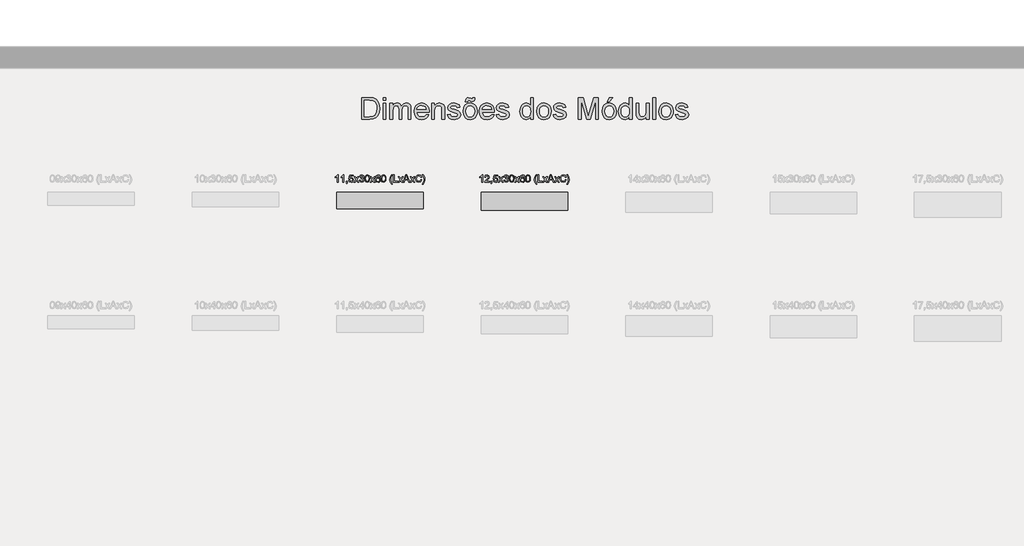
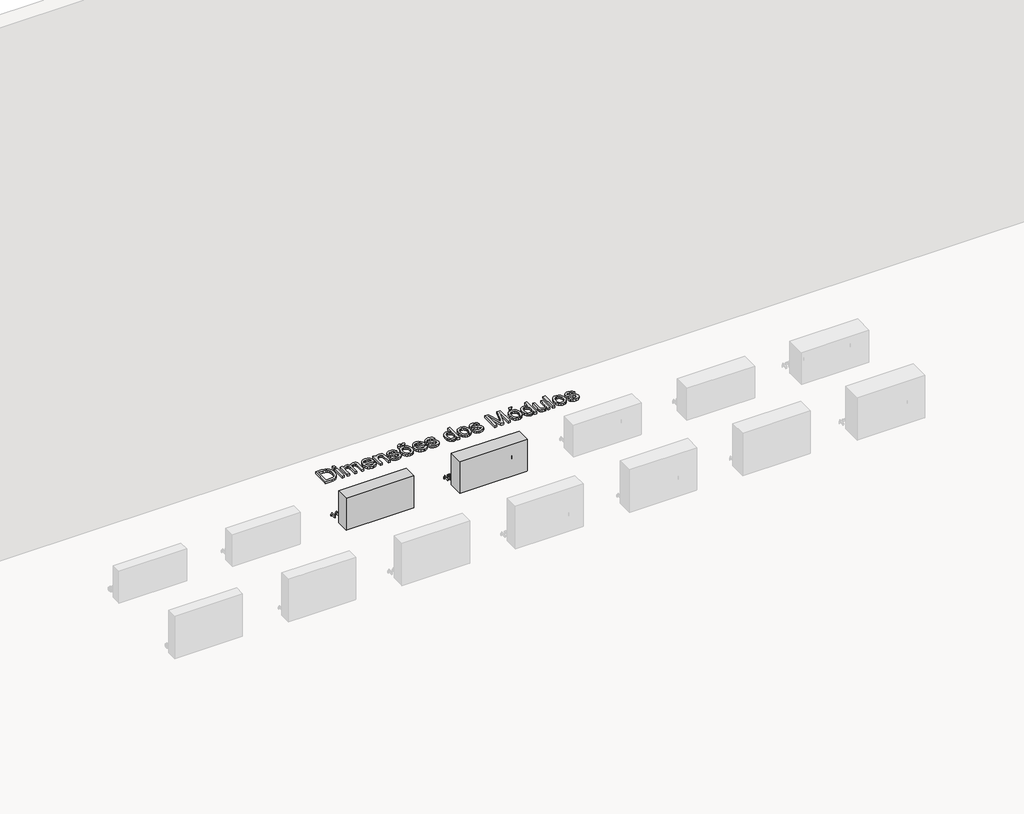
# One storey, part 20 of 26: 5 proxies.
"""IFC4 building model written with IfcOpenShell, lengths in millimetres."""

from ifc_helpers import new_model, si_unit, origin, origin_with_axes, place, context, project, spatial, polyline, outline, extrude, transform, mapped, element, save
from components import generic_models_adb0b913, generic_models_a790b70a

model = new_model("IFC4")

# Units and contexts
model_context = context("Model", 3, world=origin())
ifc_project = project(units=[si_unit("LENGTHUNIT", "METRE", prefix="MILLI")], contexts=[model_context])

# Site, building, storey
site = spatial("IfcSite", under=ifc_project)
building = spatial("IfcBuilding", under=site)
storey = spatial("IfcBuildingStorey", under=building, Name="Catálogo Celucon", Elevation=0.0)

# Proxies
placement = place(None, origin())
element("IfcBuildingElementProxy", 1, Name="Dimensões", ObjectType="Dimensões", at=placement, inside=storey, context=model_context, shape_type="SweptSolid", body=[
    extrude(outline(polyline([(-9787.0646748, 1418.4635097), (-9793.3431942, 1418.4635097), (-9793.3431942, 1457.606154), (-9799.2906197, 1453.3693797), (-9805.9002329, 1450.1994632), (-9805.9002329, 1456.134626), (-9796.6970517, 1462.0084752), (-9791.1113767, 1468.6916648), (-9787.0646748, 1468.6916648), (-9787.0646748, 1418.4635097)])), origin_with_axes(), (0.0, 0.0, 1.0), 20.0),
    extrude(outline(polyline([(-9748.6087435, 1418.4635097), (-9754.8872629, 1418.4635097), (-9754.8872629, 1457.606154), (-9760.8346885, 1453.3693797), (-9767.4443017, 1450.1994632), (-9767.4443017, 1456.134626), (-9758.2411204, 1462.0084752), (-9752.6554455, 1468.6916648), (-9748.6087435, 1468.6916648), (-9748.6087435, 1418.4635097)])), origin_with_axes(), (0.0, 0.0, 1.0), 20.0),
    extrude(outline(polyline([(-9730.5580003, 1418.4635097), (-9730.5580003, 1424.7420291), (-9724.2794809, 1424.7420291), (-9724.2794809, 1418.4635097), (-9725.4076524, 1412.0439689), (-9728.9883705, 1408.2609157), (-9730.5580003, 1410.6153605), (-9728.2526065, 1413.3254245), (-9727.4310034, 1418.4635097), (-9730.5580003, 1418.4635097)])), origin_with_axes(), (0.0, 0.0, 1.0), 20.0),
    extrude(outline(polyline([(-9714.0768869, 1431.8053634), (-9707.7983675, 1432.5901783), (-9704.6345824, 1426.1215866), (-9698.0740201, 1423.9572142), (-9690.2013454, 1426.9677152), (-9687.3931795, 1434.9568858), (-9690.0235358, 1442.4126276), (-9697.9759183, 1445.1472171), (-9703.4880168, 1444.0558338), (-9707.0135526, 1441.2231425), (-9713.292072, 1442.0079574), (-9707.7983675, 1467.9068499), (-9683.4691049, 1467.9068499), (-9683.4691049, 1461.6283305), (-9702.721596, 1461.6283305), (-9705.4071346, 1447.7959675), (-9696.2223474, 1451.4257365), (-9685.4863245, 1446.9253134), (-9681.1146602, 1435.3492933), (-9685.0509975, 1423.6996968), (-9690.7041175, 1419.1839453), (-9698.0985456, 1417.6786948), (-9709.177925, 1421.5475871), (-9714.0768869, 1431.8053634)])), origin_with_axes(), (0.0, 0.0, 1.0), 20.0),
    extrude(outline(polyline([(-9677.9754005, 1418.4635097), (-9664.5599704, 1437.0047623), (-9677.1905855, 1455.3498111), (-9669.6367419, 1455.3498111), (-9663.5421635, 1446.5206432), (-9660.6972094, 1442.3513139), (-9658.2324001, 1445.7603537), (-9651.2916931, 1455.3498111), (-9643.7378494, 1455.3498111), (-9657.0061267, 1437.0047623), (-9644.2283588, 1418.4635097), (-9651.7822024, 1418.4635097), (-9659.4709361, 1429.6103342), (-9660.8811504, 1431.6459479), (-9670.4215568, 1418.4635097), (-9677.9754005, 1418.4635097)])), origin_with_axes(), (0.0, 0.0, 1.0), 20.0),
    extrude(outline(polyline([(-9640.3042842, 1431.8053634), (-9634.0257648, 1432.5901783), (-9630.5615427, 1425.9805651), (-9624.0806882, 1423.9572142), (-9616.4532681, 1426.7408546), (-9613.6205768, 1433.6325106), (-9616.4287427, 1440.1256279), (-9623.5656534, 1442.6946705), (-9627.9679746, 1442.0079574), (-9627.2689988, 1448.2864768), (-9619.1388067, 1450.0155222), (-9615.9750215, 1455.5582776), (-9618.2681526, 1460.4695022), (-9624.17879, 1462.4131454), (-9630.1630038, 1460.4511081), (-9633.2409499, 1454.5649962), (-9639.5194692, 1455.3498111), (-9634.381384, 1465.1967858), (-9624.3995192, 1468.6916648), (-9616.8272815, 1466.9687508), (-9611.5297808, 1462.2598612), (-9609.6965022, 1455.9261595), (-9611.4378103, 1450.1381495), (-9616.5881582, 1445.9810829), (-9609.7455531, 1441.6891263), (-9607.3420574, 1433.522146), (-9612.1490488, 1422.2894825), (-9624.3014174, 1417.6786948), (-9635.3133518, 1421.6150321), (-9640.3042842, 1431.8053634)])), origin_with_axes(), (0.0, 0.0, 1.0), 20.0),
    extrude(outline(polyline([(-9601.8483529, 1443.172917), (-9600.0028116, 1457.6245481), (-9594.5213699, 1465.9570753), (-9585.3672395, 1468.6916648), (-9578.0341251, 1467.072984), (-9572.9696163, 1462.407014), (-9570.0265603, 1454.9757977), (-9568.8861262, 1443.172917), (-9570.7132734, 1428.7825997), (-9576.176321, 1420.4316784), (-9585.3672395, 1417.6786948), (-9596.8451578, 1422.4611607), (-9600.5975541, 1430.9561691), (-9601.8483529, 1443.172917)]), holes=[polyline([(-9595.5698335, 1443.1851798), (-9592.6267776, 1427.5931146), (-9585.3672395, 1423.9572142), (-9578.1077015, 1427.6053773), (-9575.1646455, 1443.1851798), (-9578.0095996, 1458.5994354), (-9585.4408159, 1462.4131454), (-9592.5286757, 1459.0531565), (-9595.5698335, 1443.1851798)])]), origin_with_axes(), (0.0, 0.0, 1.0), 20.0),
    extrude(outline(polyline([(-9565.7468665, 1418.4635097), (-9552.3314364, 1437.0047623), (-9564.9620515, 1455.3498111), (-9557.4082079, 1455.3498111), (-9551.3136295, 1446.5206432), (-9548.4686754, 1442.3513139), (-9546.0038661, 1445.7603537), (-9539.0631591, 1455.3498111), (-9531.5093155, 1455.3498111), (-9544.7775927, 1437.0047623), (-9531.9998248, 1418.4635097), (-9539.5536684, 1418.4635097), (-9547.2424021, 1429.6103342), (-9548.6526164, 1431.6459479), (-9558.1930228, 1418.4635097), (-9565.7468665, 1418.4635097)])), origin_with_axes(), (0.0, 0.0, 1.0), 20.0),
    extrude(outline(polyline([(-9495.8983383, 1455.3498111), (-9502.1768577, 1454.5649962), (-9504.5558279, 1459.8011832), (-9510.8466101, 1462.4131454), (-9516.5119928, 1460.8925665), (-9520.797818, 1455.1842642), (-9522.5820457, 1443.9945202), (-9517.0454217, 1449.0038467), (-9510.1844225, 1450.6409215), (-9499.5158446, 1446.1650239), (-9495.1135234, 1434.6012666), (-9497.1859253, 1425.9376456), (-9502.8880962, 1419.806279), (-9511.1163902, 1417.6786948), (-9523.9125523, 1423.319552), (-9527.6235619, 1430.7875565), (-9528.8605651, 1441.9098555), (-9527.487139, 1454.4147777), (-9523.3668606, 1462.9649684), (-9517.7413318, 1467.2599907), (-9510.4542026, 1468.6916648), (-9500.5336515, 1465.1477349), (-9495.8983383, 1455.3498111)]), holes=[polyline([(-9522.5820457, 1434.6993684), (-9521.1289118, 1429.2608463), (-9517.2661509, 1425.3122462), (-9511.6068995, 1423.9572142), (-9504.20634, 1426.7653801), (-9501.3920428, 1434.3928001), (-9504.1695518, 1441.6952577), (-9511.8644169, 1444.3624022), (-9519.4611801, 1441.6952577), (-9522.5820457, 1434.6993684)])]), origin_with_axes(), (0.0, 0.0, 1.0), 20.0),
    extrude(outline(polyline([(-9489.6198189, 1443.172917), (-9487.7742776, 1457.6245481), (-9482.2928359, 1465.9570753), (-9473.1387056, 1468.6916648), (-9465.8055911, 1467.072984), (-9460.7410823, 1462.407014), (-9457.7980264, 1454.9757977), (-9456.6575922, 1443.172917), (-9458.4847394, 1428.7825997), (-9463.947787, 1420.4316784), (-9473.1387056, 1417.6786948), (-9484.6166238, 1422.4611607), (-9488.3690202, 1430.9561691), (-9489.6198189, 1443.172917)]), holes=[polyline([(-9483.3412996, 1443.1851798), (-9480.3982436, 1427.5931146), (-9473.1387056, 1423.9572142), (-9465.8791675, 1427.6053773), (-9462.9361116, 1443.1851798), (-9465.7810656, 1458.5994354), (-9473.212282, 1462.4131454), (-9480.3001417, 1459.0531565), (-9483.3412996, 1443.1851798)])]), origin_with_axes(), (0.0, 0.0, 1.0), 20.0),
    extrude(outline(polyline([(-9417.416846, 1404.3368411), (-9426.331853, 1419.0643836), (-9429.9738848, 1436.5510411), (-9427.251558, 1451.8181439), (-9417.416846, 1468.6916648), (-9412.7079565, 1468.6916648), (-9418.5818057, 1458.7465882), (-9422.1134728, 1449.1080799), (-9423.6953654, 1436.5142529), (-9420.9485132, 1420.4194156), (-9412.7079565, 1404.3368411), (-9417.416846, 1404.3368411)])), origin_with_axes(), (0.0, 0.0, 1.0), 20.0),
    extrude(outline(polyline([(-9405.6446222, 1418.4635097), (-9405.6446222, 1468.6916648), (-9399.3661028, 1468.6916648), (-9399.3661028, 1424.7420291), (-9374.2520252, 1424.7420291), (-9374.2520252, 1418.4635097), (-9405.6446222, 1418.4635097)])), origin_with_axes(), (0.0, 0.0, 1.0), 20.0),
    extrude(outline(polyline([(-9337.7213431, 1418.4635097), (-9317.6717744, 1468.6916648), (-9312.3252227, 1468.6916648), (-9292.275654, 1418.4635097), (-9298.9097926, 1418.4635097), (-9304.6610145, 1434.1598082), (-9325.3482454, 1434.1598082), (-9331.0872045, 1418.4635097), (-9337.7213431, 1418.4635097)]), holes=[polyline([(-9323.0428515, 1440.4383275), (-9306.9541456, 1440.4383275), (-9311.4790941, 1452.7868999), (-9314.9984986, 1462.4131454), (-9318.1254955, 1453.8660204), (-9323.0428515, 1440.4383275)])]), origin_with_axes(), (0.0, 0.0, 1.0), 20.0),
    extrude(outline(polyline([(-9371.8975805, 1418.4635097), (-9358.4821504, 1437.0047623), (-9371.1127656, 1455.3498111), (-9363.5589219, 1455.3498111), (-9357.4643435, 1446.5206432), (-9354.6193894, 1442.3513139), (-9352.1545801, 1445.7603537), (-9345.2138731, 1455.3498111), (-9337.6600295, 1455.3498111), (-9350.9283068, 1437.0047623), (-9338.1505388, 1418.4635097), (-9345.7043824, 1418.4635097), (-9353.3931161, 1429.6103342), (-9354.8033304, 1431.6459479), (-9364.3437368, 1418.4635097), (-9371.8975805, 1418.4635097)])), origin_with_axes(), (0.0, 0.0, 1.0), 20.0),
    extrude(outline(polyline([(-9290.2768285, 1418.4635097), (-9276.8613984, 1437.0047623), (-9289.4920136, 1455.3498111), (-9281.9381699, 1455.3498111), (-9275.8435915, 1446.5206432), (-9272.9986374, 1442.3513139), (-9270.5338281, 1445.7603537), (-9263.5931211, 1455.3498111), (-9256.0392775, 1455.3498111), (-9269.3075548, 1437.0047623), (-9256.5297868, 1418.4635097), (-9264.0836304, 1418.4635097), (-9271.7723641, 1429.6103342), (-9273.1825784, 1431.6459479), (-9282.7229848, 1418.4635097), (-9290.2768285, 1418.4635097)])), origin_with_axes(), (0.0, 0.0, 1.0), 20.0),
    extrude(outline(polyline([(-9214.9345959, 1436.3180492), (-9208.6560765, 1434.6993684), (-9216.0995555, 1422.0380964), (-9229.2452055, 1417.6786948), (-9242.3111477, 1420.97737), (-9249.9753559, 1430.5300391), (-9252.6057122, 1443.957732), (-9249.6319994, 1457.606154), (-9241.1768449, 1466.453716), (-9229.1103154, 1469.4764797), (-9216.5348825, 1465.5646678), (-9209.4408914, 1454.5527334), (-9215.7194108, 1453.05668), (-9220.8697587, 1460.7760705), (-9229.3555701, 1463.1979603), (-9239.1780194, 1460.5124218), (-9244.7269061, 1453.3019346), (-9246.3271928, 1443.9699947), (-9244.4326005, 1433.154264), (-9238.5342259, 1426.2442139), (-9229.8706049, 1423.9572142), (-9220.2627534, 1427.0719484), (-9214.9345959, 1436.3180492)])), origin_with_axes(), (0.0, 0.0, 1.0), 20.0),
    extrude(outline(polyline([(-9199.2382974, 1404.3368411), (-9203.9471869, 1404.3368411), (-9195.7066303, 1420.4194156), (-9192.959778, 1436.5142529), (-9194.5416706, 1448.9977153), (-9198.0365496, 1458.6484863), (-9203.9471869, 1468.6916648), (-9199.2382974, 1468.6916648), (-9189.4035854, 1451.8181439), (-9186.6812586, 1436.5510411), (-9190.3416845, 1419.0643836), (-9199.2382974, 1404.3368411)])), origin_with_axes(), (0.0, 0.0, 1.0), 20.0),
])
element("IfcBuildingElementProxy", 2, Name="Dimensões", ObjectType="Dimensões", at=placement, inside=storey, context=model_context, shape_type="SweptSolid", body=[
    extrude(outline(polyline([(-8787.0646748, 1418.4635097), (-8793.3431942, 1418.4635097), (-8793.3431942, 1457.606154), (-8799.2906197, 1453.3693797), (-8805.9002329, 1450.1994632), (-8805.9002329, 1456.134626), (-8796.6970517, 1462.0084752), (-8791.1113767, 1468.6916648), (-8787.0646748, 1468.6916648), (-8787.0646748, 1418.4635097)])), origin_with_axes(), (0.0, 0.0, 1.0), 20.0),
    extrude(outline(polyline([(-8739.9757794, 1424.7420291), (-8739.9757794, 1418.4635097), (-8772.9380062, 1418.4635097), (-8772.2635558, 1422.7922545), (-8768.4498458, 1429.45705), (-8760.5894338, 1436.7349821), (-8749.7491777, 1447.1950935), (-8747.0391137, 1454.3074788), (-8749.5958936, 1460.064832), (-8756.2729518, 1462.4131454), (-8763.2320528, 1460.1200143), (-8765.8746718, 1453.7801812), (-8772.1531912, 1454.5649962), (-8767.3400685, 1465.0741585), (-8756.1380617, 1468.6916648), (-8744.8992668, 1464.6694883), (-8740.7605943, 1454.6876235), (-8741.876503, 1448.7340665), (-8745.5859798, 1442.5781745), (-8754.5806946, 1433.9758672), (-8761.8034444, 1427.9364711), (-8764.6361358, 1424.7420291), (-8739.9757794, 1424.7420291)])), origin_with_axes(), (0.0, 0.0, 1.0), 20.0),
    extrude(outline(polyline([(-8730.5580003, 1418.4635097), (-8730.5580003, 1424.7420291), (-8724.2794809, 1424.7420291), (-8724.2794809, 1418.4635097), (-8725.4076524, 1412.0439689), (-8728.9883705, 1408.2609157), (-8730.5580003, 1410.6153605), (-8728.2526065, 1413.3254245), (-8727.4310034, 1418.4635097), (-8730.5580003, 1418.4635097)])), origin_with_axes(), (0.0, 0.0, 1.0), 20.0),
    extrude(outline(polyline([(-8714.0768869, 1431.8053634), (-8707.7983675, 1432.5901783), (-8704.6345824, 1426.1215866), (-8698.0740201, 1423.9572142), (-8690.2013454, 1426.9677152), (-8687.3931795, 1434.9568858), (-8690.0235358, 1442.4126276), (-8697.9759183, 1445.1472171), (-8703.4880168, 1444.0558338), (-8707.0135526, 1441.2231425), (-8713.292072, 1442.0079574), (-8707.7983675, 1467.9068499), (-8683.4691049, 1467.9068499), (-8683.4691049, 1461.6283305), (-8702.721596, 1461.6283305), (-8705.4071346, 1447.7959675), (-8696.2223474, 1451.4257365), (-8685.4863245, 1446.9253134), (-8681.1146602, 1435.3492933), (-8685.0509975, 1423.6996968), (-8690.7041175, 1419.1839453), (-8698.0985456, 1417.6786948), (-8709.177925, 1421.5475871), (-8714.0768869, 1431.8053634)])), origin_with_axes(), (0.0, 0.0, 1.0), 20.0),
    extrude(outline(polyline([(-8677.9754005, 1418.4635097), (-8664.5599704, 1437.0047623), (-8677.1905855, 1455.3498111), (-8669.6367419, 1455.3498111), (-8663.5421635, 1446.5206432), (-8660.6972094, 1442.3513139), (-8658.2324001, 1445.7603537), (-8651.2916931, 1455.3498111), (-8643.7378494, 1455.3498111), (-8657.0061267, 1437.0047623), (-8644.2283588, 1418.4635097), (-8651.7822024, 1418.4635097), (-8659.4709361, 1429.6103342), (-8660.8811504, 1431.6459479), (-8670.4215568, 1418.4635097), (-8677.9754005, 1418.4635097)])), origin_with_axes(), (0.0, 0.0, 1.0), 20.0),
    extrude(outline(polyline([(-8640.3042842, 1431.8053634), (-8634.0257648, 1432.5901783), (-8630.5615427, 1425.9805651), (-8624.0806882, 1423.9572142), (-8616.4532681, 1426.7408546), (-8613.6205768, 1433.6325106), (-8616.4287427, 1440.1256279), (-8623.5656534, 1442.6946705), (-8627.9679746, 1442.0079574), (-8627.2689988, 1448.2864768), (-8619.1388067, 1450.0155222), (-8615.9750215, 1455.5582776), (-8618.2681526, 1460.4695022), (-8624.17879, 1462.4131454), (-8630.1630038, 1460.4511081), (-8633.2409499, 1454.5649962), (-8639.5194692, 1455.3498111), (-8634.381384, 1465.1967858), (-8624.3995192, 1468.6916648), (-8616.8272815, 1466.9687508), (-8611.5297808, 1462.2598612), (-8609.6965022, 1455.9261595), (-8611.4378103, 1450.1381495), (-8616.5881582, 1445.9810829), (-8609.7455531, 1441.6891263), (-8607.3420574, 1433.522146), (-8612.1490488, 1422.2894825), (-8624.3014174, 1417.6786948), (-8635.3133518, 1421.6150321), (-8640.3042842, 1431.8053634)])), origin_with_axes(), (0.0, 0.0, 1.0), 20.0),
    extrude(outline(polyline([(-8601.8483529, 1443.172917), (-8600.0028116, 1457.6245481), (-8594.5213699, 1465.9570753), (-8585.3672395, 1468.6916648), (-8578.0341251, 1467.072984), (-8572.9696163, 1462.407014), (-8570.0265603, 1454.9757977), (-8568.8861262, 1443.172917), (-8570.7132734, 1428.7825997), (-8576.176321, 1420.4316784), (-8585.3672395, 1417.6786948), (-8596.8451578, 1422.4611607), (-8600.5975541, 1430.9561691), (-8601.8483529, 1443.172917)]), holes=[polyline([(-8595.5698335, 1443.1851798), (-8592.6267776, 1427.5931146), (-8585.3672395, 1423.9572142), (-8578.1077015, 1427.6053773), (-8575.1646455, 1443.1851798), (-8578.0095996, 1458.5994354), (-8585.4408159, 1462.4131454), (-8592.5286757, 1459.0531565), (-8595.5698335, 1443.1851798)])]), origin_with_axes(), (0.0, 0.0, 1.0), 20.0),
    extrude(outline(polyline([(-8565.7468665, 1418.4635097), (-8552.3314364, 1437.0047623), (-8564.9620515, 1455.3498111), (-8557.4082079, 1455.3498111), (-8551.3136295, 1446.5206432), (-8548.4686754, 1442.3513139), (-8546.0038661, 1445.7603537), (-8539.0631591, 1455.3498111), (-8531.5093155, 1455.3498111), (-8544.7775927, 1437.0047623), (-8531.9998248, 1418.4635097), (-8539.5536684, 1418.4635097), (-8547.2424021, 1429.6103342), (-8548.6526164, 1431.6459479), (-8558.1930228, 1418.4635097), (-8565.7468665, 1418.4635097)])), origin_with_axes(), (0.0, 0.0, 1.0), 20.0),
    extrude(outline(polyline([(-8495.8983383, 1455.3498111), (-8502.1768577, 1454.5649962), (-8504.5558279, 1459.8011832), (-8510.8466101, 1462.4131454), (-8516.5119928, 1460.8925665), (-8520.797818, 1455.1842642), (-8522.5820457, 1443.9945202), (-8517.0454217, 1449.0038467), (-8510.1844225, 1450.6409215), (-8499.5158446, 1446.1650239), (-8495.1135234, 1434.6012666), (-8497.1859253, 1425.9376456), (-8502.8880962, 1419.806279), (-8511.1163902, 1417.6786948), (-8523.9125523, 1423.319552), (-8527.6235619, 1430.7875565), (-8528.8605651, 1441.9098555), (-8527.487139, 1454.4147777), (-8523.3668606, 1462.9649684), (-8517.7413318, 1467.2599907), (-8510.4542026, 1468.6916648), (-8500.5336515, 1465.1477349), (-8495.8983383, 1455.3498111)]), holes=[polyline([(-8522.5820457, 1434.6993684), (-8521.1289118, 1429.2608463), (-8517.2661509, 1425.3122462), (-8511.6068995, 1423.9572142), (-8504.20634, 1426.7653801), (-8501.3920428, 1434.3928001), (-8504.1695518, 1441.6952577), (-8511.8644169, 1444.3624022), (-8519.4611801, 1441.6952577), (-8522.5820457, 1434.6993684)])]), origin_with_axes(), (0.0, 0.0, 1.0), 20.0),
    extrude(outline(polyline([(-8489.6198189, 1443.172917), (-8487.7742776, 1457.6245481), (-8482.2928359, 1465.9570753), (-8473.1387056, 1468.6916648), (-8465.8055911, 1467.072984), (-8460.7410823, 1462.407014), (-8457.7980264, 1454.9757977), (-8456.6575922, 1443.172917), (-8458.4847394, 1428.7825997), (-8463.947787, 1420.4316784), (-8473.1387056, 1417.6786948), (-8484.6166238, 1422.4611607), (-8488.3690202, 1430.9561691), (-8489.6198189, 1443.172917)]), holes=[polyline([(-8483.3412996, 1443.1851798), (-8480.3982436, 1427.5931146), (-8473.1387056, 1423.9572142), (-8465.8791675, 1427.6053773), (-8462.9361116, 1443.1851798), (-8465.7810656, 1458.5994354), (-8473.212282, 1462.4131454), (-8480.3001417, 1459.0531565), (-8483.3412996, 1443.1851798)])]), origin_with_axes(), (0.0, 0.0, 1.0), 20.0),
    extrude(outline(polyline([(-8417.416846, 1404.3368411), (-8426.331853, 1419.0643836), (-8429.9738848, 1436.5510411), (-8427.251558, 1451.8181439), (-8417.416846, 1468.6916648), (-8412.7079565, 1468.6916648), (-8418.5818057, 1458.7465882), (-8422.1134728, 1449.1080799), (-8423.6953654, 1436.5142529), (-8420.9485132, 1420.4194156), (-8412.7079565, 1404.3368411), (-8417.416846, 1404.3368411)])), origin_with_axes(), (0.0, 0.0, 1.0), 20.0),
    extrude(outline(polyline([(-8405.6446222, 1418.4635097), (-8405.6446222, 1468.6916648), (-8399.3661028, 1468.6916648), (-8399.3661028, 1424.7420291), (-8374.2520252, 1424.7420291), (-8374.2520252, 1418.4635097), (-8405.6446222, 1418.4635097)])), origin_with_axes(), (0.0, 0.0, 1.0), 20.0),
    extrude(outline(polyline([(-8337.7213431, 1418.4635097), (-8317.6717744, 1468.6916648), (-8312.3252227, 1468.6916648), (-8292.275654, 1418.4635097), (-8298.9097926, 1418.4635097), (-8304.6610145, 1434.1598082), (-8325.3482454, 1434.1598082), (-8331.0872045, 1418.4635097), (-8337.7213431, 1418.4635097)]), holes=[polyline([(-8323.0428515, 1440.4383275), (-8306.9541456, 1440.4383275), (-8311.4790941, 1452.7868999), (-8314.9984986, 1462.4131454), (-8318.1254955, 1453.8660204), (-8323.0428515, 1440.4383275)])]), origin_with_axes(), (0.0, 0.0, 1.0), 20.0),
    extrude(outline(polyline([(-8371.8975805, 1418.4635097), (-8358.4821504, 1437.0047623), (-8371.1127656, 1455.3498111), (-8363.5589219, 1455.3498111), (-8357.4643435, 1446.5206432), (-8354.6193894, 1442.3513139), (-8352.1545801, 1445.7603537), (-8345.2138731, 1455.3498111), (-8337.6600295, 1455.3498111), (-8350.9283068, 1437.0047623), (-8338.1505388, 1418.4635097), (-8345.7043824, 1418.4635097), (-8353.3931161, 1429.6103342), (-8354.8033304, 1431.6459479), (-8364.3437368, 1418.4635097), (-8371.8975805, 1418.4635097)])), origin_with_axes(), (0.0, 0.0, 1.0), 20.0),
    extrude(outline(polyline([(-8290.2768285, 1418.4635097), (-8276.8613984, 1437.0047623), (-8289.4920136, 1455.3498111), (-8281.9381699, 1455.3498111), (-8275.8435915, 1446.5206432), (-8272.9986374, 1442.3513139), (-8270.5338281, 1445.7603537), (-8263.5931211, 1455.3498111), (-8256.0392775, 1455.3498111), (-8269.3075548, 1437.0047623), (-8256.5297868, 1418.4635097), (-8264.0836304, 1418.4635097), (-8271.7723641, 1429.6103342), (-8273.1825784, 1431.6459479), (-8282.7229848, 1418.4635097), (-8290.2768285, 1418.4635097)])), origin_with_axes(), (0.0, 0.0, 1.0), 20.0),
    extrude(outline(polyline([(-8214.9345959, 1436.3180492), (-8208.6560765, 1434.6993684), (-8216.0995555, 1422.0380964), (-8229.2452055, 1417.6786948), (-8242.3111477, 1420.97737), (-8249.9753559, 1430.5300391), (-8252.6057122, 1443.957732), (-8249.6319994, 1457.606154), (-8241.1768449, 1466.453716), (-8229.1103154, 1469.4764797), (-8216.5348825, 1465.5646678), (-8209.4408914, 1454.5527334), (-8215.7194108, 1453.05668), (-8220.8697587, 1460.7760705), (-8229.3555701, 1463.1979603), (-8239.1780194, 1460.5124218), (-8244.7269061, 1453.3019346), (-8246.3271928, 1443.9699947), (-8244.4326005, 1433.154264), (-8238.5342259, 1426.2442139), (-8229.8706049, 1423.9572142), (-8220.2627534, 1427.0719484), (-8214.9345959, 1436.3180492)])), origin_with_axes(), (0.0, 0.0, 1.0), 20.0),
    extrude(outline(polyline([(-8199.2382974, 1404.3368411), (-8203.9471869, 1404.3368411), (-8195.7066303, 1420.4194156), (-8192.959778, 1436.5142529), (-8194.5416706, 1448.9977153), (-8198.0365496, 1458.6484863), (-8203.9471869, 1468.6916648), (-8199.2382974, 1468.6916648), (-8189.4035854, 1451.8181439), (-8186.6812586, 1436.5510411), (-8190.3416845, 1419.0643836), (-8199.2382974, 1404.3368411)])), origin_with_axes(), (0.0, 0.0, 1.0), 20.0),
])
element("IfcBuildingElementProxy", 3, Name="Legenda Tabela de Módulos", ObjectType="Legenda Tabela de Módulos", at=placement, inside=storey, context=model_context, shape_type="SweptSolid", body=[
    extrude(outline(polyline([(-9624.4621977, 1853.8954164), (-9624.4621977, 2004.5798816), (-9572.4804717, 2004.5798816), (-9545.5882979, 2002.4093779), (-9523.4418018, 1991.6304354), (-9513.0215443, 1980.1525171), (-9505.599525, 1965.8786957), (-9501.1573499, 1949.0848827), (-9499.6766249, 1930.0469894), (-9503.6865386, 1899.6415425), (-9513.9872345, 1877.6973815), (-9527.7460211, 1864.0305654), (-9545.7538448, 1856.4705904), (-9569.9788742, 1853.8954164), (-9624.4621977, 1853.8954164)]), holes=[polyline([(-9605.6266395, 1872.7309746), (-9572.2965307, 1872.7309746), (-9548.0531073, 1875.4533013), (-9534.0735914, 1883.142035), (-9522.6140673, 1901.8488345), (-9518.512183, 1930.341295), (-9520.5217384, 1950.8691103), (-9526.5504046, 1966.0258485), (-9535.4577474, 1976.436909), (-9546.1033327, 1982.7276911), (-9572.8115655, 1985.7443235), (-9605.6266395, 1985.7443235), (-9605.6266395, 1872.7309746)])]), origin_with_axes(), (0.0, 0.0, 1.0), 20.0),
    extrude(outline(polyline([(-9476.1321772, 1985.7443235), (-9476.1321772, 2004.5798816), (-9457.296619, 2004.5798816), (-9457.296619, 1985.7443235), (-9476.1321772, 1985.7443235)])), origin_with_axes(), (0.0, 0.0, 1.0), 20.0),
    extrude(outline(polyline([(-9476.1321772, 1853.8954164), (-9476.1321772, 1964.5543206), (-9457.296619, 1964.5543206), (-9457.296619, 1853.8954164), (-9476.1321772, 1853.8954164)])), origin_with_axes(), (0.0, 0.0, 1.0), 20.0),
    extrude(outline(polyline([(-9429.0432818, 1853.8954164), (-9429.0432818, 1964.5543206), (-9410.2077237, 1964.5543206), (-9410.2077237, 1946.3441618), (-9397.2582774, 1961.2617767), (-9378.8273895, 1966.9087653), (-9368.3519497, 1965.469427), (-9359.9550431, 1961.1514121), (-9349.5807709, 1945.0197866), (-9334.8838852, 1961.4365206), (-9316.3242385, 1966.9087653), (-9302.1653802, 1964.6324955), (-9291.6945389, 1957.8036859), (-9285.2244143, 1946.2383957), (-9283.0677061, 1929.7526838), (-9283.0677061, 1853.8954164), (-9301.9032643, 1853.8954164), (-9301.9032643, 1921.6592799), (-9303.6507038, 1937.3862352), (-9309.9782741, 1945.1301512), (-9320.7388224, 1948.0732072), (-9330.9429493, 1946.1878119), (-9339.2616809, 1940.5316263), (-9344.7937064, 1930.718374), (-9346.6377149, 1916.3617792), (-9346.6377149, 1853.8954164), (-9365.4732731, 1853.8954164), (-9365.4732731, 1923.7562073), (-9369.8326747, 1942.0031542), (-9375.5854294, 1946.5556939), (-9384.1248902, 1948.0732072), (-9398.0676178, 1944.0265052), (-9407.3382441, 1932.180705), (-9410.2077237, 1909.7031151), (-9410.2077237, 1853.8954164), (-9429.0432818, 1853.8954164)])), origin_with_axes(), (0.0, 0.0, 1.0), 20.0),
    extrude(outline(polyline([(-9177.3384207, 1886.8576432), (-9158.8707446, 1884.5031984), (-9165.5248101, 1870.5880619), (-9176.1428042, 1860.1861985), (-9190.4856035, 1853.7022784), (-9208.3140847, 1851.5409716), (-9230.4145956, 1855.2703754), (-9247.4199408, 1866.4585865), (-9258.2632626, 1884.3790382), (-9261.8777032, 1908.3051635), (-9258.2264744, 1933.0360306), (-9247.272788, 1951.5312979), (-9230.497369, 1963.0643985), (-9209.3809425, 1966.9087653), (-9188.922105, 1963.0735955), (-9172.5743489, 1951.5680861), (-9161.8551872, 1933.109607), (-9158.2821334, 1908.4155281), (-9158.392498, 1903.3387566), (-9243.0421451, 1903.3387566), (-9239.7817909, 1889.2396791), (-9232.2080203, 1878.8746039), (-9221.2773265, 1872.5010483), (-9207.9462027, 1870.3765298), (-9189.4785266, 1874.3128671), (-9177.3384207, 1886.8576432)]), holes=[polyline([(-9243.0421451, 1922.1743147), (-9177.1176915, 1922.1743147), (-9179.6652743, 1932.1255227), (-9184.6592724, 1939.2440393), (-9195.64055, 1945.8659152), (-9209.4545189, 1948.0732072), (-9222.1510463, 1946.3119721), (-9232.6494787, 1941.028267), (-9239.9473378, 1932.7923088), (-9243.0421451, 1922.1743147)])]), origin_with_axes(), (0.0, 0.0, 1.0), 20.0),
    extrude(outline(polyline([(-9139.4465752, 1853.8954164), (-9139.4465752, 1964.5543206), (-9120.6110171, 1964.5543206), (-9120.6110171, 1949.1032768), (-9106.208437, 1962.4573932), (-9086.5451443, 1966.9087653), (-9068.7580498, 1963.3219159), (-9056.617944, 1953.9041368), (-9050.9709554, 1940.0533797), (-9049.977674, 1921.8432209), (-9049.977674, 1853.8954164), (-9068.8132321, 1853.8954164), (-9068.8132321, 1919.3048351), (-9070.9837359, 1935.9698895), (-9078.6540755, 1944.7806633), (-9091.5851276, 1948.0732072), (-9102.616989, 1946.2246001), (-9112.0209725, 1940.6787791), (-9118.4635059, 1929.964216), (-9120.6110171, 1912.6093828), (-9120.6110171, 1853.8954164), (-9139.4465752, 1853.8954164)])), origin_with_axes(), (0.0, 0.0, 1.0), 20.0),
    extrude(outline(polyline([(-9031.1421158, 1886.8576432), (-9012.3065577, 1889.2120879), (-9009.3359106, 1881.1554722), (-9003.5877544, 1875.2325721), (-8983.6117621, 1870.3765298), (-8964.4083219, 1874.8279019), (-8958.154328, 1885.2757506), (-8959.7270235, 1890.0766106), (-8964.4451101, 1893.7370365), (-8983.8324913, 1899.1081136), (-9012.1961931, 1908.3235576), (-9024.5754222, 1919.0841059), (-9028.7876711, 1934.2776323), (-9025.4031567, 1948.3123305), (-9016.1693186, 1959.0360906), (-9004.1947597, 1964.6095028), (-8987.9895578, 1966.9087653), (-8965.0705095, 1963.2115513), (-8950.5023825, 1953.205161), (-8944.0276594, 1936.3009833), (-8962.8632175, 1933.9465386), (-8969.9449459, 1944.3392049), (-8986.5180298, 1948.0732072), (-9004.5442476, 1944.5047518), (-9009.9521129, 1936.1906187), (-9007.7080327, 1930.709177), (-9000.6814866, 1926.5521104), (-8984.4578906, 1922.5421967), (-8956.8115587, 1913.6762406), (-8943.9724771, 1903.6330621), (-8939.3187698, 1887.2623134), (-8944.7818175, 1869.2360956), (-8960.545561, 1856.1578907), (-8983.8692795, 1851.5409716), (-9002.8611875, 1853.7666577), (-9016.7211416, 1860.4437159), (-9025.9733738, 1871.4985699), (-9031.1421158, 1886.8576432)])), origin_with_axes(), (0.0, 0.0, 1.0), 20.0),
    extrude(outline(polyline([(-8922.8376565, 1909.2248685), (-8918.7633634, 1935.9055102), (-8906.5404841, 1954.6582949), (-8891.4389282, 1963.8461477), (-8873.3575281, 1966.9087653), (-8853.5700753, 1963.1793616), (-8837.7649451, 1951.9911504), (-8827.4044684, 1934.2270486), (-8823.9509762, 1910.7699729), (-8825.4776864, 1891.7412767), (-8830.0578173, 1877.2559231), (-8837.5580114, 1866.4080028), (-8847.8449117, 1858.2916062), (-8860.0631925, 1853.2286303), (-8873.3575281, 1851.5409716), (-8893.3841042, 1855.2565798), (-8909.1708403, 1866.4034042), (-8919.4209524, 1884.5399866), (-8922.8376565, 1909.2248685)]), holes=[polyline([(-8904.0020983, 1909.2616567), (-8901.8223975, 1892.2149247), (-8895.283295, 1880.0702204), (-8885.4424516, 1872.7999524), (-8873.3575281, 1870.3765298), (-8861.3277869, 1872.813748), (-8851.5053376, 1880.1254027), (-8844.9662351, 1892.4310554), (-8842.7865343, 1909.8502679), (-8844.9800307, 1926.4003591), (-8851.5605199, 1938.3795166), (-8861.3967647, 1945.6497845), (-8873.3575281, 1948.0732072), (-8885.4424516, 1945.6589816), (-8895.283295, 1938.4163048), (-8901.8223975, 1926.2991916), (-8904.0020983, 1909.2616567)])]), origin_with_axes(), (0.0, 0.0, 1.0), 20.0),
    extrude(outline(polyline([(-8906.3565431, 1976.3265444), (-8904.9310003, 1987.9056302), (-8900.5072193, 1996.8911479), (-8893.8393582, 2002.6576982), (-8885.5344221, 2004.5798816), (-8870.4512603, 1998.5098287), (-8862.836103, 1995.1621025), (-8858.8445834, 1997.0566948), (-8856.9132029, 2004.5798816), (-8840.4320895, 2004.5798816), (-8842.0737629, 1992.2190466), (-8846.410172, 1983.3898787), (-8852.8619024, 1978.092378), (-8860.8495403, 1976.3265444), (-8875.7487611, 1982.0655035), (-8883.6950122, 1985.7443235), (-8888.1831725, 1983.3530905), (-8889.8754297, 1976.3265444), (-8906.3565431, 1976.3265444)])), origin_with_axes(), (0.0, 0.0, 1.0), 20.0),
    extrude(outline(polyline([(-8725.285025, 1886.8576432), (-8706.8173489, 1884.5031984), (-8713.4714145, 1870.5880619), (-8724.0894086, 1860.1861985), (-8738.4322078, 1853.7022784), (-8756.260689, 1851.5409716), (-8778.3611999, 1855.2703754), (-8795.3665451, 1866.4585865), (-8806.2098669, 1884.3790382), (-8809.8243075, 1908.3051635), (-8806.1730787, 1933.0360306), (-8795.2193923, 1951.5312979), (-8778.4439733, 1963.0643985), (-8757.3275468, 1966.9087653), (-8736.8687094, 1963.0735955), (-8720.5209532, 1951.5680861), (-8709.8017916, 1933.109607), (-8706.2287377, 1908.4155281), (-8706.3391023, 1903.3387566), (-8790.9887494, 1903.3387566), (-8787.7283952, 1889.2396791), (-8780.1546246, 1878.8746039), (-8769.2239308, 1872.5010483), (-8755.892807, 1870.3765298), (-8737.4251309, 1874.3128671), (-8725.285025, 1886.8576432)]), holes=[polyline([(-8790.9887494, 1922.1743147), (-8725.0642958, 1922.1743147), (-8727.6118787, 1932.1255227), (-8732.6058767, 1939.2440393), (-8743.5871543, 1945.8659152), (-8757.4011232, 1948.0732072), (-8770.0976506, 1946.3119721), (-8780.596083, 1941.028267), (-8787.8939421, 1932.7923088), (-8790.9887494, 1922.1743147)])]), origin_with_axes(), (0.0, 0.0, 1.0), 20.0),
    extrude(outline(polyline([(-8694.4565138, 1886.8576432), (-8675.6209557, 1889.2120879), (-8672.6503086, 1881.1554722), (-8666.9021524, 1875.2325721), (-8646.9261601, 1870.3765298), (-8627.7227199, 1874.8279019), (-8621.468726, 1885.2757506), (-8623.0414215, 1890.0766106), (-8627.7595081, 1893.7370365), (-8647.1468893, 1899.1081136), (-8675.5105911, 1908.3235576), (-8687.8898202, 1919.0841059), (-8692.1020691, 1934.2776323), (-8688.7175547, 1948.3123305), (-8679.4837166, 1959.0360906), (-8667.5091577, 1964.6095028), (-8651.3039558, 1966.9087653), (-8628.3849075, 1963.2115513), (-8613.8167805, 1953.205161), (-8607.3420574, 1936.3009833), (-8626.1776155, 1933.9465386), (-8633.259344, 1944.3392049), (-8649.8324278, 1948.0732072), (-8667.8586456, 1944.5047518), (-8673.2665109, 1936.1906187), (-8671.0224308, 1930.709177), (-8663.9958846, 1926.5521104), (-8647.7722887, 1922.5421967), (-8620.1259567, 1913.6762406), (-8607.2868751, 1903.6330621), (-8602.6331679, 1887.2623134), (-8608.0962155, 1869.2360956), (-8623.859959, 1856.1578907), (-8647.1836775, 1851.5409716), (-8666.1755855, 1853.7666577), (-8680.0355396, 1860.4437159), (-8689.2877718, 1871.4985699), (-8694.4565138, 1886.8576432)])), origin_with_axes(), (0.0, 0.0, 1.0), 20.0),
    extrude(outline(polyline([(-8454.3031474, 1853.8954164), (-8454.3031474, 1871.6641168), (-8466.76515, 1856.5717579), (-8483.9912244, 1851.5409716), (-8496.1681184, 1853.3619875), (-8507.3149429, 1858.8250351), (-8516.7511161, 1867.5484369), (-8523.7960563, 1879.1505154), (-8528.1830491, 1893.1622209), (-8529.64538, 1909.1145039), (-8524.2559088, 1939.0968865), (-8517.5236683, 1950.988672), (-8508.1058892, 1959.7350664), (-8496.7153429, 1965.1153406), (-8484.0648008, 1966.9087653), (-8466.7007706, 1961.7768115), (-8454.3031474, 1948.4410892), (-8454.3031474, 2004.5798816), (-8435.4675892, 2004.5798816), (-8435.4675892, 1853.8954164), (-8454.3031474, 1853.8954164)]), holes=[polyline([(-8510.8098219, 1909.1880803), (-8508.6853033, 1892.1505454), (-8502.3117478, 1880.0334322), (-8493.0503185, 1872.7907554), (-8482.262179, 1870.3765298), (-8471.478638, 1872.6803908), (-8462.4517336, 1879.5919738), (-8456.3402939, 1891.2400374), (-8454.3031474, 1907.7533405), (-8456.3770821, 1925.8071494), (-8462.5988864, 1938.3243343), (-8471.8557171, 1945.6359889), (-8483.0347312, 1948.0732072), (-8493.9332353, 1945.732558), (-8502.8635708, 1938.7106104), (-8508.8232591, 1926.6486795), (-8510.8098219, 1909.1880803)])]), origin_with_axes(), (0.0, 0.0, 1.0), 20.0),
    extrude(outline(polyline([(-8411.9231416, 1909.2248685), (-8407.8488485, 1935.9055102), (-8395.6259692, 1954.6582949), (-8380.5244133, 1963.8461477), (-8362.4430132, 1966.9087653), (-8342.6555604, 1963.1793616), (-8326.8504302, 1951.9911504), (-8316.4899535, 1934.2270486), (-8313.0364613, 1910.7699729), (-8314.5631715, 1891.7412767), (-8319.1433024, 1877.2559231), (-8326.6434965, 1866.4080028), (-8336.9303968, 1858.2916062), (-8349.1486776, 1853.2286303), (-8362.4430132, 1851.5409716), (-8382.4695893, 1855.2565798), (-8398.2563254, 1866.4034042), (-8408.5064375, 1884.5399866), (-8411.9231416, 1909.2248685)]), holes=[polyline([(-8393.0875834, 1909.2616567), (-8390.9078826, 1892.2149247), (-8384.3687801, 1880.0702204), (-8374.5279367, 1872.7999524), (-8362.4430132, 1870.3765298), (-8350.413272, 1872.813748), (-8340.5908227, 1880.1254027), (-8334.0517202, 1892.4310554), (-8331.8720194, 1909.8502679), (-8334.0655158, 1926.4003591), (-8340.646005, 1938.3795166), (-8350.4822498, 1945.6497845), (-8362.4430132, 1948.0732072), (-8374.5279367, 1945.6589816), (-8384.3687801, 1938.4163048), (-8390.9078826, 1926.2991916), (-8393.0875834, 1909.2616567)])]), origin_with_axes(), (0.0, 0.0, 1.0), 20.0),
    extrude(outline(polyline([(-8298.9097926, 1886.8576432), (-8280.0742345, 1889.2120879), (-8277.1035874, 1881.1554722), (-8271.3554312, 1875.2325721), (-8251.3794389, 1870.3765298), (-8232.1759987, 1874.8279019), (-8225.9220048, 1885.2757506), (-8227.4947003, 1890.0766106), (-8232.2127869, 1893.7370365), (-8251.6001681, 1899.1081136), (-8279.9638699, 1908.3235576), (-8292.343099, 1919.0841059), (-8296.5553479, 1934.2776323), (-8293.1708335, 1948.3123305), (-8283.9369954, 1959.0360906), (-8271.9624365, 1964.6095028), (-8255.7572346, 1966.9087653), (-8232.8381863, 1963.2115513), (-8218.2700593, 1953.205161), (-8211.7953362, 1936.3009833), (-8230.6308943, 1933.9465386), (-8237.7126227, 1944.3392049), (-8254.2857066, 1948.0732072), (-8272.3119244, 1944.5047518), (-8277.7197897, 1936.1906187), (-8275.4757095, 1930.709177), (-8268.4491634, 1926.5521104), (-8252.2255674, 1922.5421967), (-8224.5792355, 1913.6762406), (-8211.7401539, 1903.6330621), (-8207.0864466, 1887.2623134), (-8212.5494943, 1869.2360956), (-8228.3132378, 1856.1578907), (-8251.6369563, 1851.5409716), (-8270.6288643, 1853.7666577), (-8284.4888184, 1860.4437159), (-8293.7410506, 1871.4985699), (-8298.9097926, 1886.8576432)])), origin_with_axes(), (0.0, 0.0, 1.0), 20.0),
    extrude(outline(polyline([(-8124.6808797, 1853.8954164), (-8124.6808797, 2004.5798816), (-8092.2704759, 2004.5798816), (-8061.4419647, 1898.3723496), (-8055.224759, 1876.1890653), (-8048.4925185, 1900.2117596), (-8018.1790421, 2004.5798816), (-7985.7686383, 2004.5798816), (-7985.7686383, 1853.8954164), (-8004.6041965, 1853.8954164), (-8004.6041965, 1985.7443235), (-8042.4592538, 1853.8954164), (-8067.9902643, 1853.8954164), (-8105.8453216, 1985.7443235), (-8105.8453216, 1853.8954164), (-8124.6808797, 1853.8954164)])), origin_with_axes(), (0.0, 0.0, 1.0), 20.0),
    extrude(outline(polyline([(-7959.8697459, 1909.2248685), (-7955.7954528, 1935.9055102), (-7943.5725735, 1954.6582949), (-7928.4710176, 1963.8461477), (-7910.3896175, 1966.9087653), (-7890.6021647, 1963.1793616), (-7874.7970345, 1951.9911504), (-7864.4365578, 1934.2270486), (-7860.9830656, 1910.7699729), (-7862.5097759, 1891.7412767), (-7867.0899067, 1877.2559231), (-7874.5901009, 1866.4080028), (-7884.8770012, 1858.2916062), (-7897.0952819, 1853.2286303), (-7910.3896175, 1851.5409716), (-7930.4161936, 1855.2565798), (-7946.2029298, 1866.4034042), (-7956.4530419, 1884.5399866), (-7959.8697459, 1909.2248685)]), holes=[polyline([(-7941.0341877, 1909.2616567), (-7938.8544869, 1892.2149247), (-7932.3153844, 1880.0702204), (-7922.4745411, 1872.7999524), (-7910.3896175, 1870.3765298), (-7898.3598763, 1872.813748), (-7888.537427, 1880.1254027), (-7881.9983246, 1892.4310554), (-7879.8186237, 1909.8502679), (-7882.0121201, 1926.4003591), (-7888.5926093, 1938.3795166), (-7898.4288542, 1945.6497845), (-7910.3896175, 1948.0732072), (-7922.4745411, 1945.6589816), (-7932.3153844, 1938.4163048), (-7938.8544869, 1926.2991916), (-7941.0341877, 1909.2616567)])]), origin_with_axes(), (0.0, 0.0, 1.0), 20.0),
    extrude(outline(polyline([(-7924.5530743, 1976.3265444), (-7910.4264057, 2004.5798816), (-7886.881958, 2004.5798816), (-7910.4264057, 1976.3265444), (-7924.5530743, 1976.3265444)])), origin_with_axes(), (0.0, 0.0, 1.0), 20.0),
    extrude(outline(polyline([(-7771.5141643, 1853.8954164), (-7771.5141643, 1871.6641168), (-7783.9761669, 1856.5717579), (-7801.2022414, 1851.5409716), (-7813.3791354, 1853.3619875), (-7824.5259599, 1858.8250351), (-7833.962133, 1867.5484369), (-7841.0070732, 1879.1505154), (-7845.394066, 1893.1622209), (-7846.856397, 1909.1145039), (-7841.4669257, 1939.0968865), (-7834.7346852, 1950.988672), (-7825.3169061, 1959.7350664), (-7813.9263599, 1965.1153406), (-7801.2758178, 1966.9087653), (-7783.9117876, 1961.7768115), (-7771.5141643, 1948.4410892), (-7771.5141643, 2004.5798816), (-7752.6786062, 2004.5798816), (-7752.6786062, 1853.8954164), (-7771.5141643, 1853.8954164)]), holes=[polyline([(-7828.0208388, 1909.1880803), (-7825.8963203, 1892.1505454), (-7819.5227647, 1880.0334322), (-7810.2613355, 1872.7907554), (-7799.473196, 1870.3765298), (-7788.689655, 1872.6803908), (-7779.6627505, 1879.5919738), (-7773.5513109, 1891.2400374), (-7771.5141643, 1907.7533405), (-7773.5880991, 1925.8071494), (-7779.8099033, 1938.3243343), (-7789.066734, 1945.6359889), (-7800.2457482, 1948.0732072), (-7811.1442523, 1945.732558), (-7820.0745877, 1938.7106104), (-7826.034276, 1926.6486795), (-7828.0208388, 1909.1880803)])]), origin_with_axes(), (0.0, 0.0, 1.0), 20.0),
    extrude(outline(polyline([(-7653.7919259, 1853.8954164), (-7653.7919259, 1872.9149156), (-7668.5439939, 1856.8844576), (-7687.7842222, 1851.5409716), (-7705.4977403, 1855.293368), (-7717.7114226, 1864.7111471), (-7723.321623, 1878.5802983), (-7724.425269, 1896.0914812), (-7724.425269, 1964.5543206), (-7705.5897108, 1964.5543206), (-7705.5897108, 1904.9574373), (-7704.4492766, 1885.7539972), (-7696.9996662, 1874.478414), (-7682.9649681, 1870.3765298), (-7667.2380128, 1874.5703845), (-7656.8453465, 1885.9931205), (-7653.7919259, 1906.9807883), (-7653.7919259, 1964.5543206), (-7634.9563677, 1964.5543206), (-7634.9563677, 1853.8954164), (-7653.7919259, 1853.8954164)])), origin_with_axes(), (0.0, 0.0, 1.0), 20.0),
    extrude(outline(polyline([(-7609.0574753, 1853.8954164), (-7609.0574753, 2004.5798816), (-7590.2219171, 2004.5798816), (-7590.2219171, 1853.8954164), (-7609.0574753, 1853.8954164)])), origin_with_axes(), (0.0, 0.0, 1.0), 20.0),
    extrude(outline(polyline([(-7566.6774694, 1909.2248685), (-7562.6031763, 1935.9055102), (-7550.380297, 1954.6582949), (-7535.2787411, 1963.8461477), (-7517.1973411, 1966.9087653), (-7497.4098883, 1963.1793616), (-7481.6047581, 1951.9911504), (-7471.2442814, 1934.2270486), (-7467.7907891, 1910.7699729), (-7469.3174994, 1891.7412767), (-7473.8976303, 1877.2559231), (-7481.3978244, 1866.4080028), (-7491.6847247, 1858.2916062), (-7503.9030055, 1853.2286303), (-7517.1973411, 1851.5409716), (-7537.2239172, 1855.2565798), (-7553.0106533, 1866.4034042), (-7563.2607654, 1884.5399866), (-7566.6774694, 1909.2248685)]), holes=[polyline([(-7547.8419113, 1909.2616567), (-7545.6622105, 1892.2149247), (-7539.123108, 1880.0702204), (-7529.2822646, 1872.7999524), (-7517.1973411, 1870.3765298), (-7505.1675998, 1872.813748), (-7495.3451506, 1880.1254027), (-7488.8060481, 1892.4310554), (-7486.6263473, 1909.8502679), (-7488.8198437, 1926.4003591), (-7495.4003329, 1938.3795166), (-7505.2365777, 1945.6497845), (-7517.1973411, 1948.0732072), (-7529.2822646, 1945.6589816), (-7539.123108, 1938.4163048), (-7545.6622105, 1926.2991916), (-7547.8419113, 1909.2616567)])]), origin_with_axes(), (0.0, 0.0, 1.0), 20.0),
    extrude(outline(polyline([(-7453.6641205, 1886.8576432), (-7434.8285624, 1889.2120879), (-7431.8579153, 1881.1554722), (-7426.1097591, 1875.2325721), (-7406.1337667, 1870.3765298), (-7386.9303266, 1874.8279019), (-7380.6763327, 1885.2757506), (-7382.2490282, 1890.0766106), (-7386.9671148, 1893.7370365), (-7406.3544959, 1899.1081136), (-7434.7181978, 1908.3235576), (-7447.0974269, 1919.0841059), (-7451.3096757, 1934.2776323), (-7447.9251614, 1948.3123305), (-7438.6913233, 1959.0360906), (-7426.7167644, 1964.6095028), (-7410.5115625, 1966.9087653), (-7387.5925142, 1963.2115513), (-7373.0243872, 1953.205161), (-7366.5496641, 1936.3009833), (-7385.3852222, 1933.9465386), (-7392.4669506, 1944.3392049), (-7409.0400345, 1948.0732072), (-7427.0662523, 1944.5047518), (-7432.4741176, 1936.1906187), (-7430.2300374, 1930.709177), (-7423.2034913, 1926.5521104), (-7406.9798953, 1922.5421967), (-7379.3335634, 1913.6762406), (-7366.4944818, 1903.6330621), (-7361.8407745, 1887.2623134), (-7367.3038221, 1869.2360956), (-7383.0675656, 1856.1578907), (-7406.3912841, 1851.5409716), (-7425.3831921, 1853.7666577), (-7439.2431463, 1860.4437159), (-7448.4953785, 1871.4985699), (-7453.6641205, 1886.8576432)])), origin_with_axes(), (0.0, 0.0, 1.0), 20.0),
])
generic_models_shape = generic_models_adb0b913(model_context)
element("IfcBuildingElementProxy", 4, Name="Módulo de Vedação de Concreto Celular - Celucon : MVCC 12,5x30x60cm (L x A x C)", ObjectType="Módulo de Vedação de Concreto Celular - Celucon : MVCC 12,5x30x60cm (L x A x C)", at=placement, inside=storey, context=model_context, shape_type="MappedRepresentation", body=[
    mapped(generic_models_shape, transform((-8497.8603756, 1287.8239878, 0.0), x_axis=(1.0, 0.0, 0.0), y_axis=(0.0, 1.0, 0.0), z_axis=(0.0, 0.0, 1.0))),
])
generic_models_2_shape = generic_models_a790b70a(model_context)
element("IfcBuildingElementProxy", 5, Name="Módulo de Vedação de Concreto Celular - Celucon : MVCC 11,5x30x60cm (L x A x C)", ObjectType="Módulo de Vedação de Concreto Celular - Celucon : MVCC 11,5x30x60cm (L x A x C)", at=placement, inside=storey, context=model_context, shape_type="MappedRepresentation", body=[
    mapped(generic_models_2_shape, transform((-9497.8603756, 1292.8239878, 0.0), x_axis=(1.0, 0.0, 0.0), y_axis=(0.0, 1.0, 0.0), z_axis=(0.0, 0.0, 1.0))),
])

save(model, "model.ifc")
